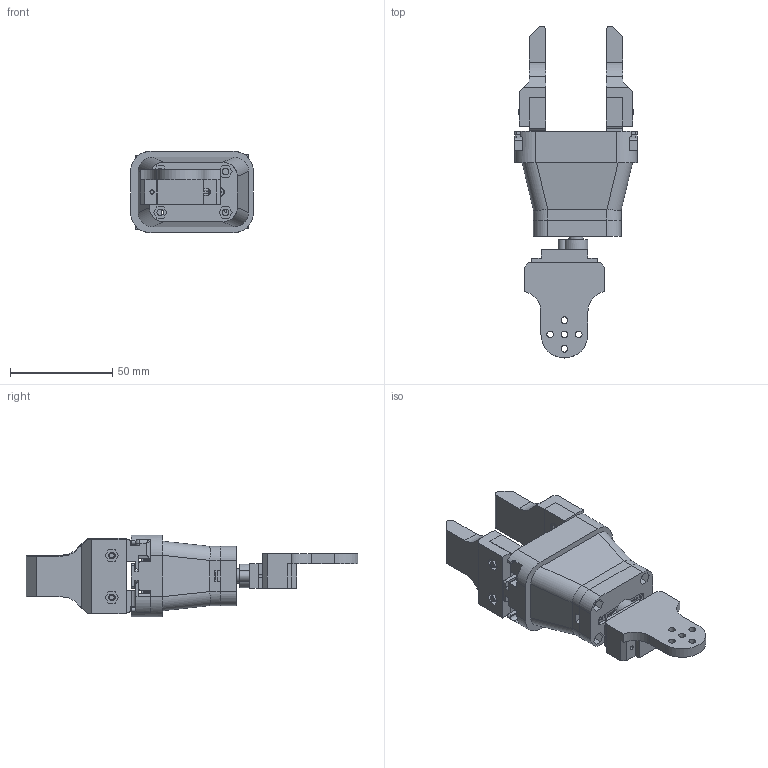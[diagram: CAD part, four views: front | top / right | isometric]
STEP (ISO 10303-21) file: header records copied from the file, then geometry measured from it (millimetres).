
FILE_DESCRIPTION(/* description */ (''),/* implementation_level */ '2;1');
FILE_NAME(/* name */ 'gripper v3.stp',/* time_stamp */ '2025-06-18T16:34:34+02:00',/* author */ ('R5800u'),/* organization */ (''),/* preprocessor_version */ 'ST-DEVELOPER v20',/* originating_system */ 'Autodesk Inventor 2025',/* authorisation */ '');
FILE_SCHEMA (('AUTOMOTIVE_DESIGN { 1 0 10303 214 3 1 1 }'));
Products named in the file (16): gripper; gripper_rail_base; gripper_finger; gripper_base_plate; link2_MG90; MG90S_assieme_disco_ldb2; MG90_ldb; scritta_MG90s; MG90S 9g Micro Servo Medium Horn 12 holes; MG90S 9g Micro Servo Medium Horn 12 holes 2; blocco_giunto_polso; gripper_spur_gear v2; dito1; BS 4168 - M2,5 x 10; AS 1420 - 1973 - M3 x 10; AS 1427 - M2 x 12
Assembly tree (23 placements, depth 3):
  gripper
    gripper_rail_base
    gripper_finger  x2
    gripper_base_plate
    MG90S_assieme_disco_ldb2  x2
      MG90_ldb
      scritta_MG90s
    link2_MG90
    MG90S 9g Micro Servo Medium Horn 12 holes
    MG90S 9g Micro Servo Medium Horn 12 holes 2
    blocco_giunto_polso
    gripper_spur_gear v2
    dito1  x2
    AS 1420 - 1973 - M3 x 10  x5
    BS 4168 - M2,5 x 10
    AS 1427 - M2 x 12
Bounding box: 60 x 162.44 x 40 mm (x, y, z)
Volume: 115991.3 mm3; surface area: 56583.6 mm2
Topology: 24 solids, 24 shells, 1544 faces, 5287 edges, 3941 vertices
Faces by surface type: plane 1088, cylinder 355, bspline 50, cone 28, torus 21, sphere 2
Full cylindrical faces by diameter (mm): 1.03 x18, 1.167 x6, 1.5 x2, 1.7 x6, 1.755 x1, 2 x5, 2.2 x2, 2.47 x2, 2.5 x2, 2.7 x1, 3 x7, 3.2 x25, 3.5 x1, 4 x1, 4.5 x1, 4.69 x2, 4.8 x2, 5.5 x10, 5.8 x4, 6.86 x2, 23 x1
Entity records: 68849 total; most frequent: CARTESIAN_POINT 42113, ORIENTED_EDGE 5740, DIRECTION 4979, EDGE_CURVE 2870, VERTEX_POINT 2017, LINE 1909, VECTOR 1909, AXIS2_PLACEMENT_3D 1535
